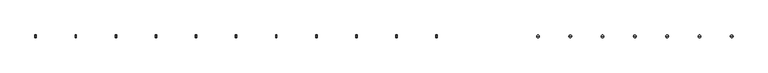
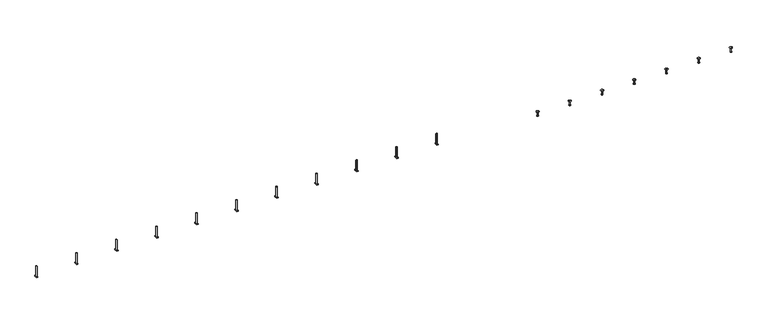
"""IFC4 building model written with IfcOpenShell, lengths in millimetres: fastener geometry, JTA-K JORDAHL® AnchorChannels : JTA-K L=6000 mm."""

from ifc_helpers import new_model, si_unit, frame, origin, place, context, project, spatial, polyline, circle_curve, source, transform, mapped, element, save
from ifc_brep_helpers import plane_surface, cylinder_surface, revolved_surface, advanced_brep


def fastener_eb618456(model_context):
    return source(origin(), model_context, "Body", "AdvancedBrep", [
        advanced_brep(
        [(3467.3421053, 11.0, -2.3), (3467.3421053, -11.0, -2.3), (3467.3421053, -11.0, -8.3), (3467.3421053, 11.0, -8.3), (3456.3421053, 11.0, -2.3), (3456.3421053, 11.0, -8.3), (3456.3421053, -11.0, -8.3), (3456.3421053, -11.0, -2.3), (3465.8421053, 0.0, -2.3), (3457.8421053, 0.0, -2.3), (3457.8421053, 0.0, 77.7), (3465.8421053, 0.0, 77.7)],
        [
            (0, 1),
            (1, 2),
            (2, 3),
            (3, 0),
            (4, 5),
            (5, 6),
            (6, 7),
            (7, 4),
            (0, 4),
            (7, 1),
            (8, 9, circle_curve(frame((3461.8421053, 0.0, -2.3), z_axis=(0.0, 0.0, -1.0), x_axis=(1.0, 0.0, 0.0)), 4.0)),
            (9, 8, circle_curve(frame((3461.8421053, 0.0, -2.3), z_axis=(0.0, 0.0, -1.0), x_axis=(1.0, 0.0, 0.0)), 4.0)),
            (6, 2),
            (5, 3),
            (10, 11, circle_curve(frame((3461.8421053, 0.0, 77.7), z_axis=(0.0, 0.0, 1.0), x_axis=(1.0, 0.0, 0.0)), 4.0)),
            (11, 10, circle_curve(frame((3461.8421053, 0.0, 77.7), z_axis=(0.0, 0.0, 1.0), x_axis=(1.0, 0.0, 0.0)), 4.0)),
            (10, 9),
            (8, 11),
        ],
        [
            plane_surface(frame((3467.3421053, -11.0, -2.3), z_axis=(1.0, 0.0, 0.0), x_axis=(0.0, -1.0, 0.0))),
            plane_surface(frame((3456.3421053, -11.0, -2.3), z_axis=(-1.0, 0.0, 0.0), x_axis=(0.0, 1.0, 0.0))),
            plane_surface(frame((3467.3421053, 11.0, -2.3), z_axis=(0.0, 0.0, 1.0), x_axis=(-1.0, 0.0, 0.0))),
            plane_surface(frame((3467.3421053, -11.0, -2.3), z_axis=(0.0, -1.0, 0.0), x_axis=(-1.0, 0.0, 0.0))),
            plane_surface(frame((3467.3421053, -11.0, -8.3), z_axis=(0.0, 0.0, -1.0), x_axis=(-1.0, 0.0, 0.0))),
            plane_surface(frame((3467.3421053, 11.0, -8.3), z_axis=(0.0, 1.0, 0.0), x_axis=(-1.0, 0.0, 0.0))),
            plane_surface(frame((3465.8421053, 0.0, 77.7), z_axis=(0.0, 0.0, 1.0), x_axis=(0.0, 1.0, 0.0))),
            cylinder_surface(frame((3461.8421053, 0.0, -2.3), z_axis=(0.0, 0.0, 1.0), x_axis=(1.0, 0.0, 0.0)), 4.0),
        ],
        [
            (0, [[1, 2, 3, 4]]),
            (1, [[5, 6, 7, 8]]),
            (2, [[-1, 9, -8, 10], [11, 12]]),
            (3, [[-2, -10, -7, 13]]),
            (4, [[-3, -13, -6, 14]]),
            (5, [[-4, -14, -5, -9]]),
            (6, [[15, 16]]),
            (7, [[-15, 17, -11, 18]]),
            (7, [[-16, -18, -12, -17]]),
        ],
    ),
        advanced_brep(
        [(3159.4473684, 11.0, -2.3), (3159.4473684, -11.0, -2.3), (3159.4473684, -11.0, -8.3), (3159.4473684, 11.0, -8.3), (3148.4473684, 11.0, -2.3), (3148.4473684, 11.0, -8.3), (3148.4473684, -11.0, -8.3), (3148.4473684, -11.0, -2.3), (3157.9473684, 0.0, -2.3), (3149.9473684, 0.0, -2.3), (3149.9473684, 0.0, 77.7), (3157.9473684, 0.0, 77.7)],
        [
            (0, 1),
            (1, 2),
            (2, 3),
            (3, 0),
            (4, 5),
            (5, 6),
            (6, 7),
            (7, 4),
            (0, 4),
            (7, 1),
            (8, 9, circle_curve(frame((3153.9473684, 0.0, -2.3), z_axis=(0.0, 0.0, -1.0), x_axis=(1.0, 0.0, 0.0)), 4.0)),
            (9, 8, circle_curve(frame((3153.9473684, 0.0, -2.3), z_axis=(0.0, 0.0, -1.0), x_axis=(1.0, 0.0, 0.0)), 4.0)),
            (6, 2),
            (5, 3),
            (10, 11, circle_curve(frame((3153.9473684, 0.0, 77.7), z_axis=(0.0, 0.0, 1.0), x_axis=(1.0, 0.0, 0.0)), 4.0)),
            (11, 10, circle_curve(frame((3153.9473684, 0.0, 77.7), z_axis=(0.0, 0.0, 1.0), x_axis=(1.0, 0.0, 0.0)), 4.0)),
            (10, 9),
            (8, 11),
        ],
        [
            plane_surface(frame((3159.4473684, -11.0, -2.3), z_axis=(1.0, 0.0, 0.0), x_axis=(0.0, -1.0, 0.0))),
            plane_surface(frame((3148.4473684, -11.0, -2.3), z_axis=(-1.0, 0.0, 0.0), x_axis=(0.0, 1.0, 0.0))),
            plane_surface(frame((3159.4473684, 11.0, -2.3), z_axis=(0.0, 0.0, 1.0), x_axis=(-1.0, 0.0, 0.0))),
            plane_surface(frame((3159.4473684, -11.0, -2.3), z_axis=(0.0, -1.0, 0.0), x_axis=(-1.0, 0.0, 0.0))),
            plane_surface(frame((3159.4473684, -11.0, -8.3), z_axis=(0.0, 0.0, -1.0), x_axis=(-1.0, 0.0, 0.0))),
            plane_surface(frame((3159.4473684, 11.0, -8.3), z_axis=(0.0, 1.0, 0.0), x_axis=(-1.0, 0.0, 0.0))),
            plane_surface(frame((3157.9473684, 0.0, 77.7), z_axis=(0.0, 0.0, 1.0), x_axis=(0.0, 1.0, 0.0))),
            cylinder_surface(frame((3153.9473684, 0.0, -2.3), z_axis=(0.0, 0.0, 1.0), x_axis=(1.0, 0.0, 0.0)), 4.0),
        ],
        [
            (0, [[1, 2, 3, 4]]),
            (1, [[5, 6, 7, 8]]),
            (2, [[-1, 9, -8, 10], [11, 12]]),
            (3, [[-2, -10, -7, 13]]),
            (4, [[-3, -13, -6, 14]]),
            (5, [[-4, -14, -5, -9]]),
            (6, [[15, 16]]),
            (7, [[-15, 17, -11, 18]]),
            (7, [[-16, -18, -12, -17]]),
        ],
    ),
        advanced_brep(
        [(2851.5526316, 11.0, -2.3), (2851.5526316, -11.0, -2.3), (2851.5526316, -11.0, -8.3), (2851.5526316, 11.0, -8.3), (2840.5526316, 11.0, -2.3), (2840.5526316, 11.0, -8.3), (2840.5526316, -11.0, -8.3), (2840.5526316, -11.0, -2.3), (2850.0526316, 0.0, -2.3), (2842.0526316, 0.0, -2.3), (2842.0526316, 0.0, 77.7), (2850.0526316, 0.0, 77.7)],
        [
            (0, 1),
            (1, 2),
            (2, 3),
            (3, 0),
            (4, 5),
            (5, 6),
            (6, 7),
            (7, 4),
            (0, 4),
            (7, 1),
            (8, 9, circle_curve(frame((2846.0526316, 0.0, -2.3), z_axis=(0.0, 0.0, -1.0), x_axis=(1.0, 0.0, 0.0)), 4.0)),
            (9, 8, circle_curve(frame((2846.0526316, 0.0, -2.3), z_axis=(0.0, 0.0, -1.0), x_axis=(1.0, 0.0, 0.0)), 4.0)),
            (6, 2),
            (5, 3),
            (10, 11, circle_curve(frame((2846.0526316, 0.0, 77.7), z_axis=(0.0, 0.0, 1.0), x_axis=(1.0, 0.0, 0.0)), 4.0)),
            (11, 10, circle_curve(frame((2846.0526316, 0.0, 77.7), z_axis=(0.0, 0.0, 1.0), x_axis=(1.0, 0.0, 0.0)), 4.0)),
            (10, 9),
            (8, 11),
        ],
        [
            plane_surface(frame((2851.5526316, -11.0, -2.3), z_axis=(1.0, 0.0, 0.0), x_axis=(0.0, -1.0, 0.0))),
            plane_surface(frame((2840.5526316, -11.0, -2.3), z_axis=(-1.0, 0.0, 0.0), x_axis=(0.0, 1.0, 0.0))),
            plane_surface(frame((2851.5526316, 11.0, -2.3), z_axis=(0.0, 0.0, 1.0), x_axis=(-1.0, 0.0, 0.0))),
            plane_surface(frame((2851.5526316, -11.0, -2.3), z_axis=(0.0, -1.0, 0.0), x_axis=(-1.0, 0.0, 0.0))),
            plane_surface(frame((2851.5526316, -11.0, -8.3), z_axis=(0.0, 0.0, -1.0), x_axis=(-1.0, 0.0, 0.0))),
            plane_surface(frame((2851.5526316, 11.0, -8.3), z_axis=(0.0, 1.0, 0.0), x_axis=(-1.0, 0.0, 0.0))),
            plane_surface(frame((2850.0526316, 0.0, 77.7), z_axis=(0.0, 0.0, 1.0), x_axis=(0.0, 1.0, 0.0))),
            cylinder_surface(frame((2846.0526316, 0.0, -2.3), z_axis=(0.0, 0.0, 1.0), x_axis=(1.0, 0.0, 0.0)), 4.0),
        ],
        [
            (0, [[1, 2, 3, 4]]),
            (1, [[5, 6, 7, 8]]),
            (2, [[-1, 9, -8, 10], [11, 12]]),
            (3, [[-2, -10, -7, 13]]),
            (4, [[-3, -13, -6, 14]]),
            (5, [[-4, -14, -5, -9]]),
            (6, [[15, 16]]),
            (7, [[-15, 17, -11, 18]]),
            (7, [[-16, -18, -12, -17]]),
        ],
    ),
        advanced_brep(
        [(2543.6578947, 11.0, -2.3), (2543.6578947, -11.0, -2.3), (2543.6578947, -11.0, -8.3), (2543.6578947, 11.0, -8.3), (2532.6578947, 11.0, -2.3), (2532.6578947, 11.0, -8.3), (2532.6578947, -11.0, -8.3), (2532.6578947, -11.0, -2.3), (2542.1578947, 0.0, -2.3), (2534.1578947, 0.0, -2.3), (2534.1578947, 0.0, 77.7), (2542.1578947, 0.0, 77.7)],
        [
            (0, 1),
            (1, 2),
            (2, 3),
            (3, 0),
            (4, 5),
            (5, 6),
            (6, 7),
            (7, 4),
            (0, 4),
            (7, 1),
            (8, 9, circle_curve(frame((2538.1578947, 0.0, -2.3), z_axis=(0.0, 0.0, -1.0), x_axis=(1.0, 0.0, 0.0)), 4.0)),
            (9, 8, circle_curve(frame((2538.1578947, 0.0, -2.3), z_axis=(0.0, 0.0, -1.0), x_axis=(1.0, 0.0, 0.0)), 4.0)),
            (6, 2),
            (5, 3),
            (10, 11, circle_curve(frame((2538.1578947, 0.0, 77.7), z_axis=(0.0, 0.0, 1.0), x_axis=(1.0, 0.0, 0.0)), 4.0)),
            (11, 10, circle_curve(frame((2538.1578947, 0.0, 77.7), z_axis=(0.0, 0.0, 1.0), x_axis=(1.0, 0.0, 0.0)), 4.0)),
            (10, 9),
            (8, 11),
        ],
        [
            plane_surface(frame((2543.6578947, -11.0, -2.3), z_axis=(1.0, 0.0, 0.0), x_axis=(0.0, -1.0, 0.0))),
            plane_surface(frame((2532.6578947, -11.0, -2.3), z_axis=(-1.0, 0.0, 0.0), x_axis=(0.0, 1.0, 0.0))),
            plane_surface(frame((2543.6578947, 11.0, -2.3), z_axis=(0.0, 0.0, 1.0), x_axis=(-1.0, 0.0, 0.0))),
            plane_surface(frame((2543.6578947, -11.0, -2.3), z_axis=(0.0, -1.0, 0.0), x_axis=(-1.0, 0.0, 0.0))),
            plane_surface(frame((2543.6578947, -11.0, -8.3), z_axis=(0.0, 0.0, -1.0), x_axis=(-1.0, 0.0, 0.0))),
            plane_surface(frame((2543.6578947, 11.0, -8.3), z_axis=(0.0, 1.0, 0.0), x_axis=(-1.0, 0.0, 0.0))),
            plane_surface(frame((2542.1578947, 0.0, 77.7), z_axis=(0.0, 0.0, 1.0), x_axis=(0.0, 1.0, 0.0))),
            cylinder_surface(frame((2538.1578947, 0.0, -2.3), z_axis=(0.0, 0.0, 1.0), x_axis=(1.0, 0.0, 0.0)), 4.0),
        ],
        [
            (0, [[1, 2, 3, 4]]),
            (1, [[5, 6, 7, 8]]),
            (2, [[-1, 9, -8, 10], [11, 12]]),
            (3, [[-2, -10, -7, 13]]),
            (4, [[-3, -13, -6, 14]]),
            (5, [[-4, -14, -5, -9]]),
            (6, [[15, 16]]),
            (7, [[-15, 17, -11, 18]]),
            (7, [[-16, -18, -12, -17]]),
        ],
    ),
        advanced_brep(
        [(2235.7631579, 11.0, -2.3), (2235.7631579, -11.0, -2.3), (2235.7631579, -11.0, -8.3), (2235.7631579, 11.0, -8.3), (2224.7631579, 11.0, -2.3), (2224.7631579, 11.0, -8.3), (2224.7631579, -11.0, -8.3), (2224.7631579, -11.0, -2.3), (2234.2631579, 0.0, -2.3), (2226.2631579, 0.0, -2.3), (2226.2631579, 0.0, 77.7), (2234.2631579, 0.0, 77.7)],
        [
            (0, 1),
            (1, 2),
            (2, 3),
            (3, 0),
            (4, 5),
            (5, 6),
            (6, 7),
            (7, 4),
            (0, 4),
            (7, 1),
            (8, 9, circle_curve(frame((2230.2631579, 0.0, -2.3), z_axis=(0.0, 0.0, -1.0), x_axis=(1.0, 0.0, 0.0)), 4.0)),
            (9, 8, circle_curve(frame((2230.2631579, 0.0, -2.3), z_axis=(0.0, 0.0, -1.0), x_axis=(1.0, 0.0, 0.0)), 4.0)),
            (6, 2),
            (5, 3),
            (10, 11, circle_curve(frame((2230.2631579, 0.0, 77.7), z_axis=(0.0, 0.0, 1.0), x_axis=(1.0, 0.0, 0.0)), 4.0)),
            (11, 10, circle_curve(frame((2230.2631579, 0.0, 77.7), z_axis=(0.0, 0.0, 1.0), x_axis=(1.0, 0.0, 0.0)), 4.0)),
            (10, 9),
            (8, 11),
        ],
        [
            plane_surface(frame((2235.7631579, -11.0, -2.3), z_axis=(1.0, 0.0, 0.0), x_axis=(0.0, -1.0, 0.0))),
            plane_surface(frame((2224.7631579, -11.0, -2.3), z_axis=(-1.0, 0.0, 0.0), x_axis=(0.0, 1.0, 0.0))),
            plane_surface(frame((2235.7631579, 11.0, -2.3), z_axis=(0.0, 0.0, 1.0), x_axis=(-1.0, 0.0, 0.0))),
            plane_surface(frame((2235.7631579, -11.0, -2.3), z_axis=(0.0, -1.0, 0.0), x_axis=(-1.0, 0.0, 0.0))),
            plane_surface(frame((2235.7631579, -11.0, -8.3), z_axis=(0.0, 0.0, -1.0), x_axis=(-1.0, 0.0, 0.0))),
            plane_surface(frame((2235.7631579, 11.0, -8.3), z_axis=(0.0, 1.0, 0.0), x_axis=(-1.0, 0.0, 0.0))),
            plane_surface(frame((2234.2631579, 0.0, 77.7), z_axis=(0.0, 0.0, 1.0), x_axis=(0.0, 1.0, 0.0))),
            cylinder_surface(frame((2230.2631579, 0.0, -2.3), z_axis=(0.0, 0.0, 1.0), x_axis=(1.0, 0.0, 0.0)), 4.0),
        ],
        [
            (0, [[1, 2, 3, 4]]),
            (1, [[5, 6, 7, 8]]),
            (2, [[-1, 9, -8, 10], [11, 12]]),
            (3, [[-2, -10, -7, 13]]),
            (4, [[-3, -13, -6, 14]]),
            (5, [[-4, -14, -5, -9]]),
            (6, [[15, 16]]),
            (7, [[-15, 17, -11, 18]]),
            (7, [[-16, -18, -12, -17]]),
        ],
    ),
        advanced_brep(
        [(1927.8684211, 11.0, -2.3), (1927.8684211, -11.0, -2.3), (1927.8684211, -11.0, -8.3), (1927.8684211, 11.0, -8.3), (1916.8684211, 11.0, -2.3), (1916.8684211, 11.0, -8.3), (1916.8684211, -11.0, -8.3), (1916.8684211, -11.0, -2.3), (1926.3684211, 0.0, -2.3), (1918.3684211, 0.0, -2.3), (1918.3684211, 0.0, 77.7), (1926.3684211, 0.0, 77.7)],
        [
            (0, 1),
            (1, 2),
            (2, 3),
            (3, 0),
            (4, 5),
            (5, 6),
            (6, 7),
            (7, 4),
            (0, 4),
            (7, 1),
            (8, 9, circle_curve(frame((1922.3684211, 0.0, -2.3), z_axis=(0.0, 0.0, -1.0), x_axis=(1.0, 0.0, 0.0)), 4.0)),
            (9, 8, circle_curve(frame((1922.3684211, 0.0, -2.3), z_axis=(0.0, 0.0, -1.0), x_axis=(1.0, 0.0, 0.0)), 4.0)),
            (6, 2),
            (5, 3),
            (10, 11, circle_curve(frame((1922.3684211, 0.0, 77.7), z_axis=(0.0, 0.0, 1.0), x_axis=(1.0, 0.0, 0.0)), 4.0)),
            (11, 10, circle_curve(frame((1922.3684211, 0.0, 77.7), z_axis=(0.0, 0.0, 1.0), x_axis=(1.0, 0.0, 0.0)), 4.0)),
            (10, 9),
            (8, 11),
        ],
        [
            plane_surface(frame((1927.8684211, -11.0, -2.3), z_axis=(1.0, 0.0, 0.0), x_axis=(0.0, -1.0, 0.0))),
            plane_surface(frame((1916.8684211, -11.0, -2.3), z_axis=(-1.0, 0.0, 0.0), x_axis=(0.0, 1.0, 0.0))),
            plane_surface(frame((1927.8684211, 11.0, -2.3), z_axis=(0.0, 0.0, 1.0), x_axis=(-1.0, 0.0, 0.0))),
            plane_surface(frame((1927.8684211, -11.0, -2.3), z_axis=(0.0, -1.0, 0.0), x_axis=(-1.0, 0.0, 0.0))),
            plane_surface(frame((1927.8684211, -11.0, -8.3), z_axis=(0.0, 0.0, -1.0), x_axis=(-1.0, 0.0, 0.0))),
            plane_surface(frame((1927.8684211, 11.0, -8.3), z_axis=(0.0, 1.0, 0.0), x_axis=(-1.0, 0.0, 0.0))),
            plane_surface(frame((1926.3684211, 0.0, 77.7), z_axis=(0.0, 0.0, 1.0), x_axis=(0.0, 1.0, 0.0))),
            cylinder_surface(frame((1922.3684211, 0.0, -2.3), z_axis=(0.0, 0.0, 1.0), x_axis=(1.0, 0.0, 0.0)), 4.0),
        ],
        [
            (0, [[1, 2, 3, 4]]),
            (1, [[5, 6, 7, 8]]),
            (2, [[-1, 9, -8, 10], [11, 12]]),
            (3, [[-2, -10, -7, 13]]),
            (4, [[-3, -13, -6, 14]]),
            (5, [[-4, -14, -5, -9]]),
            (6, [[15, 16]]),
            (7, [[-15, 17, -11, 18]]),
            (7, [[-16, -18, -12, -17]]),
        ],
    ),
        advanced_brep(
        [(1619.9736842, 11.0, -2.3), (1619.9736842, -11.0, -2.3), (1619.9736842, -11.0, -8.3), (1619.9736842, 11.0, -8.3), (1608.9736842, 11.0, -2.3), (1608.9736842, 11.0, -8.3), (1608.9736842, -11.0, -8.3), (1608.9736842, -11.0, -2.3), (1618.4736842, 0.0, -2.3), (1610.4736842, 0.0, -2.3), (1610.4736842, 0.0, 77.7), (1618.4736842, 0.0, 77.7)],
        [
            (0, 1),
            (1, 2),
            (2, 3),
            (3, 0),
            (4, 5),
            (5, 6),
            (6, 7),
            (7, 4),
            (0, 4),
            (7, 1),
            (8, 9, circle_curve(frame((1614.4736842, 0.0, -2.3), z_axis=(0.0, 0.0, -1.0), x_axis=(1.0, 0.0, 0.0)), 4.0)),
            (9, 8, circle_curve(frame((1614.4736842, 0.0, -2.3), z_axis=(0.0, 0.0, -1.0), x_axis=(1.0, 0.0, 0.0)), 4.0)),
            (6, 2),
            (5, 3),
            (10, 11, circle_curve(frame((1614.4736842, 0.0, 77.7), z_axis=(0.0, 0.0, 1.0), x_axis=(1.0, 0.0, 0.0)), 4.0)),
            (11, 10, circle_curve(frame((1614.4736842, 0.0, 77.7), z_axis=(0.0, 0.0, 1.0), x_axis=(1.0, 0.0, 0.0)), 4.0)),
            (10, 9),
            (8, 11),
        ],
        [
            plane_surface(frame((1619.9736842, -11.0, -2.3), z_axis=(1.0, 0.0, 0.0), x_axis=(0.0, -1.0, 0.0))),
            plane_surface(frame((1608.9736842, -11.0, -2.3), z_axis=(-1.0, 0.0, 0.0), x_axis=(0.0, 1.0, 0.0))),
            plane_surface(frame((1619.9736842, 11.0, -2.3), z_axis=(0.0, 0.0, 1.0), x_axis=(-1.0, 0.0, 0.0))),
            plane_surface(frame((1619.9736842, -11.0, -2.3), z_axis=(0.0, -1.0, 0.0), x_axis=(-1.0, 0.0, 0.0))),
            plane_surface(frame((1619.9736842, -11.0, -8.3), z_axis=(0.0, 0.0, -1.0), x_axis=(-1.0, 0.0, 0.0))),
            plane_surface(frame((1619.9736842, 11.0, -8.3), z_axis=(0.0, 1.0, 0.0), x_axis=(-1.0, 0.0, 0.0))),
            plane_surface(frame((1618.4736842, 0.0, 77.7), z_axis=(0.0, 0.0, 1.0), x_axis=(0.0, 1.0, 0.0))),
            cylinder_surface(frame((1614.4736842, 0.0, -2.3), z_axis=(0.0, 0.0, 1.0), x_axis=(1.0, 0.0, 0.0)), 4.0),
        ],
        [
            (0, [[1, 2, 3, 4]]),
            (1, [[5, 6, 7, 8]]),
            (2, [[-1, 9, -8, 10], [11, 12]]),
            (3, [[-2, -10, -7, 13]]),
            (4, [[-3, -13, -6, 14]]),
            (5, [[-4, -14, -5, -9]]),
            (6, [[15, 16]]),
            (7, [[-15, 17, -11, 18]]),
            (7, [[-16, -18, -12, -17]]),
        ],
    ),
        advanced_brep(
        [(1312.0789474, 11.0, -2.3), (1312.0789474, -11.0, -2.3), (1312.0789474, -11.0, -8.3), (1312.0789474, 11.0, -8.3), (1301.0789474, 11.0, -2.3), (1301.0789474, 11.0, -8.3), (1301.0789474, -11.0, -8.3), (1301.0789474, -11.0, -2.3), (1310.5789474, 0.0, -2.3), (1302.5789474, 0.0, -2.3), (1302.5789474, 0.0, 77.7), (1310.5789474, 0.0, 77.7)],
        [
            (0, 1),
            (1, 2),
            (2, 3),
            (3, 0),
            (4, 5),
            (5, 6),
            (6, 7),
            (7, 4),
            (0, 4),
            (7, 1),
            (8, 9, circle_curve(frame((1306.5789474, 0.0, -2.3), z_axis=(0.0, 0.0, -1.0), x_axis=(1.0, 0.0, 0.0)), 4.0)),
            (9, 8, circle_curve(frame((1306.5789474, 0.0, -2.3), z_axis=(0.0, 0.0, -1.0), x_axis=(1.0, 0.0, 0.0)), 4.0)),
            (6, 2),
            (5, 3),
            (10, 11, circle_curve(frame((1306.5789474, 0.0, 77.7), z_axis=(0.0, 0.0, 1.0), x_axis=(1.0, 0.0, 0.0)), 4.0)),
            (11, 10, circle_curve(frame((1306.5789474, 0.0, 77.7), z_axis=(0.0, 0.0, 1.0), x_axis=(1.0, 0.0, 0.0)), 4.0)),
            (10, 9),
            (8, 11),
        ],
        [
            plane_surface(frame((1312.0789474, -11.0, -2.3), z_axis=(1.0, 0.0, 0.0), x_axis=(0.0, -1.0, 0.0))),
            plane_surface(frame((1301.0789474, -11.0, -2.3), z_axis=(-1.0, 0.0, 0.0), x_axis=(0.0, 1.0, 0.0))),
            plane_surface(frame((1312.0789474, 11.0, -2.3), z_axis=(0.0, 0.0, 1.0), x_axis=(-1.0, 0.0, 0.0))),
            plane_surface(frame((1312.0789474, -11.0, -2.3), z_axis=(0.0, -1.0, 0.0), x_axis=(-1.0, 0.0, 0.0))),
            plane_surface(frame((1312.0789474, -11.0, -8.3), z_axis=(0.0, 0.0, -1.0), x_axis=(-1.0, 0.0, 0.0))),
            plane_surface(frame((1312.0789474, 11.0, -8.3), z_axis=(0.0, 1.0, 0.0), x_axis=(-1.0, 0.0, 0.0))),
            plane_surface(frame((1310.5789474, 0.0, 77.7), z_axis=(0.0, 0.0, 1.0), x_axis=(0.0, 1.0, 0.0))),
            cylinder_surface(frame((1306.5789474, 0.0, -2.3), z_axis=(0.0, 0.0, 1.0), x_axis=(1.0, 0.0, 0.0)), 4.0),
        ],
        [
            (0, [[1, 2, 3, 4]]),
            (1, [[5, 6, 7, 8]]),
            (2, [[-1, 9, -8, 10], [11, 12]]),
            (3, [[-2, -10, -7, 13]]),
            (4, [[-3, -13, -6, 14]]),
            (5, [[-4, -14, -5, -9]]),
            (6, [[15, 16]]),
            (7, [[-15, 17, -11, 18]]),
            (7, [[-16, -18, -12, -17]]),
        ],
    ),
        advanced_brep(
        [(1004.1842105, 11.0, -2.3), (1004.1842105, -11.0, -2.3), (1004.1842105, -11.0, -8.3), (1004.1842105, 11.0, -8.3), (993.1842105, 11.0, -2.3), (993.1842105, 11.0, -8.3), (993.1842105, -11.0, -8.3), (993.1842105, -11.0, -2.3), (1002.6842105, 0.0, -2.3), (994.6842105, 0.0, -2.3), (994.6842105, 0.0, 77.7), (1002.6842105, 0.0, 77.7)],
        [
            (0, 1),
            (1, 2),
            (2, 3),
            (3, 0),
            (4, 5),
            (5, 6),
            (6, 7),
            (7, 4),
            (0, 4),
            (7, 1),
            (8, 9, circle_curve(frame((998.6842105, 0.0, -2.3), z_axis=(0.0, 0.0, -1.0), x_axis=(1.0, 0.0, 0.0)), 4.0)),
            (9, 8, circle_curve(frame((998.6842105, 0.0, -2.3), z_axis=(0.0, 0.0, -1.0), x_axis=(1.0, 0.0, 0.0)), 4.0)),
            (6, 2),
            (5, 3),
            (10, 11, circle_curve(frame((998.6842105, 0.0, 77.7), z_axis=(0.0, 0.0, 1.0), x_axis=(1.0, 0.0, 0.0)), 4.0)),
            (11, 10, circle_curve(frame((998.6842105, 0.0, 77.7), z_axis=(0.0, 0.0, 1.0), x_axis=(1.0, 0.0, 0.0)), 4.0)),
            (10, 9),
            (8, 11),
        ],
        [
            plane_surface(frame((1004.1842105, -11.0, -2.3), z_axis=(1.0, 0.0, 0.0), x_axis=(0.0, -1.0, 0.0))),
            plane_surface(frame((993.1842105, -11.0, -2.3), z_axis=(-1.0, 0.0, 0.0), x_axis=(0.0, 1.0, 0.0))),
            plane_surface(frame((1004.1842105, 11.0, -2.3), z_axis=(0.0, 0.0, 1.0), x_axis=(-1.0, 0.0, 0.0))),
            plane_surface(frame((1004.1842105, -11.0, -2.3), z_axis=(0.0, -1.0, 0.0), x_axis=(-1.0, 0.0, 0.0))),
            plane_surface(frame((1004.1842105, -11.0, -8.3), z_axis=(0.0, 0.0, -1.0), x_axis=(-1.0, 0.0, 0.0))),
            plane_surface(frame((1004.1842105, 11.0, -8.3), z_axis=(0.0, 1.0, 0.0), x_axis=(-1.0, 0.0, 0.0))),
            plane_surface(frame((1002.6842105, 0.0, 77.7), z_axis=(0.0, 0.0, 1.0), x_axis=(0.0, 1.0, 0.0))),
            cylinder_surface(frame((998.6842105, 0.0, -2.3), z_axis=(0.0, 0.0, 1.0), x_axis=(1.0, 0.0, 0.0)), 4.0),
        ],
        [
            (0, [[1, 2, 3, 4]]),
            (1, [[5, 6, 7, 8]]),
            (2, [[-1, 9, -8, 10], [11, 12]]),
            (3, [[-2, -10, -7, 13]]),
            (4, [[-3, -13, -6, 14]]),
            (5, [[-4, -14, -5, -9]]),
            (6, [[15, 16]]),
            (7, [[-15, 17, -11, 18]]),
            (7, [[-16, -18, -12, -17]]),
        ],
    ),
        advanced_brep(
        [(696.2894737, 11.0, -2.3), (696.2894737, -11.0, -2.3), (696.2894737, -11.0, -8.3), (696.2894737, 11.0, -8.3), (685.2894737, 11.0, -2.3), (685.2894737, 11.0, -8.3), (685.2894737, -11.0, -8.3), (685.2894737, -11.0, -2.3), (694.7894737, 0.0, -2.3), (686.7894737, 0.0, -2.3), (686.7894737, 0.0, 77.7), (694.7894737, 0.0, 77.7)],
        [
            (0, 1),
            (1, 2),
            (2, 3),
            (3, 0),
            (4, 5),
            (5, 6),
            (6, 7),
            (7, 4),
            (0, 4),
            (7, 1),
            (8, 9, circle_curve(frame((690.7894737, 0.0, -2.3), z_axis=(0.0, 0.0, -1.0), x_axis=(1.0, 0.0, 0.0)), 4.0)),
            (9, 8, circle_curve(frame((690.7894737, 0.0, -2.3), z_axis=(0.0, 0.0, -1.0), x_axis=(1.0, 0.0, 0.0)), 4.0)),
            (6, 2),
            (5, 3),
            (10, 11, circle_curve(frame((690.7894737, 0.0, 77.7), z_axis=(0.0, 0.0, 1.0), x_axis=(1.0, 0.0, 0.0)), 4.0)),
            (11, 10, circle_curve(frame((690.7894737, 0.0, 77.7), z_axis=(0.0, 0.0, 1.0), x_axis=(1.0, 0.0, 0.0)), 4.0)),
            (10, 9),
            (8, 11),
        ],
        [
            plane_surface(frame((696.2894737, -11.0, -2.3), z_axis=(1.0, 0.0, 0.0), x_axis=(0.0, -1.0, 0.0))),
            plane_surface(frame((685.2894737, -11.0, -2.3), z_axis=(-1.0, 0.0, 0.0), x_axis=(0.0, 1.0, 0.0))),
            plane_surface(frame((696.2894737, 11.0, -2.3), z_axis=(0.0, 0.0, 1.0), x_axis=(-1.0, 0.0, 0.0))),
            plane_surface(frame((696.2894737, -11.0, -2.3), z_axis=(0.0, -1.0, 0.0), x_axis=(-1.0, 0.0, 0.0))),
            plane_surface(frame((696.2894737, -11.0, -8.3), z_axis=(0.0, 0.0, -1.0), x_axis=(-1.0, 0.0, 0.0))),
            plane_surface(frame((696.2894737, 11.0, -8.3), z_axis=(0.0, 1.0, 0.0), x_axis=(-1.0, 0.0, 0.0))),
            plane_surface(frame((694.7894737, 0.0, 77.7), z_axis=(0.0, 0.0, 1.0), x_axis=(0.0, 1.0, 0.0))),
            cylinder_surface(frame((690.7894737, 0.0, -2.3), z_axis=(0.0, 0.0, 1.0), x_axis=(1.0, 0.0, 0.0)), 4.0),
        ],
        [
            (0, [[1, 2, 3, 4]]),
            (1, [[5, 6, 7, 8]]),
            (2, [[-1, 9, -8, 10], [11, 12]]),
            (3, [[-2, -10, -7, 13]]),
            (4, [[-3, -13, -6, 14]]),
            (5, [[-4, -14, -5, -9]]),
            (6, [[15, 16]]),
            (7, [[-15, 17, -11, 18]]),
            (7, [[-16, -18, -12, -17]]),
        ],
    ),
        advanced_brep(
        [(388.3947368, 11.0, -2.3), (388.3947368, -11.0, -2.3), (388.3947368, -11.0, -8.3), (388.3947368, 11.0, -8.3), (377.3947368, 11.0, -2.3), (377.3947368, 11.0, -8.3), (377.3947368, -11.0, -8.3), (377.3947368, -11.0, -2.3), (386.8947368, 0.0, -2.3), (378.8947368, 0.0, -2.3), (378.8947368, 0.0, 77.7), (386.8947368, 0.0, 77.7)],
        [
            (0, 1),
            (1, 2),
            (2, 3),
            (3, 0),
            (4, 5),
            (5, 6),
            (6, 7),
            (7, 4),
            (0, 4),
            (7, 1),
            (8, 9, circle_curve(frame((382.8947368, 0.0, -2.3), z_axis=(0.0, 0.0, -1.0), x_axis=(1.0, 0.0, 0.0)), 4.0)),
            (9, 8, circle_curve(frame((382.8947368, 0.0, -2.3), z_axis=(0.0, 0.0, -1.0), x_axis=(1.0, 0.0, 0.0)), 4.0)),
            (6, 2),
            (5, 3),
            (10, 11, circle_curve(frame((382.8947368, 0.0, 77.7), z_axis=(0.0, 0.0, 1.0), x_axis=(1.0, 0.0, 0.0)), 4.0)),
            (11, 10, circle_curve(frame((382.8947368, 0.0, 77.7), z_axis=(0.0, 0.0, 1.0), x_axis=(1.0, 0.0, 0.0)), 4.0)),
            (10, 9),
            (8, 11),
        ],
        [
            plane_surface(frame((388.3947368, -11.0, -2.3), z_axis=(1.0, 0.0, 0.0), x_axis=(0.0, -1.0, 0.0))),
            plane_surface(frame((377.3947368, -11.0, -2.3), z_axis=(-1.0, 0.0, 0.0), x_axis=(0.0, 1.0, 0.0))),
            plane_surface(frame((388.3947368, 11.0, -2.3), z_axis=(0.0, 0.0, 1.0), x_axis=(-1.0, 0.0, 0.0))),
            plane_surface(frame((388.3947368, -11.0, -2.3), z_axis=(0.0, -1.0, 0.0), x_axis=(-1.0, 0.0, 0.0))),
            plane_surface(frame((388.3947368, -11.0, -8.3), z_axis=(0.0, 0.0, -1.0), x_axis=(-1.0, 0.0, 0.0))),
            plane_surface(frame((388.3947368, 11.0, -8.3), z_axis=(0.0, 1.0, 0.0), x_axis=(-1.0, 0.0, 0.0))),
            plane_surface(frame((386.8947368, 0.0, 77.7), z_axis=(0.0, 0.0, 1.0), x_axis=(0.0, 1.0, 0.0))),
            cylinder_surface(frame((382.8947368, 0.0, -2.3), z_axis=(0.0, 0.0, 1.0), x_axis=(1.0, 0.0, 0.0)), 4.0),
        ],
        [
            (0, [[1, 2, 3, 4]]),
            (1, [[5, 6, 7, 8]]),
            (2, [[-1, 9, -8, 10], [11, 12]]),
            (3, [[-2, -10, -7, 13]]),
            (4, [[-3, -13, -6, 14]]),
            (5, [[-4, -14, -5, -9]]),
            (6, [[15, 16]]),
            (7, [[-15, 17, -11, 18]]),
            (7, [[-16, -18, -12, -17]]),
        ],
    ),
        advanced_brep(
        [(5727.0833333, 0.0, -15.0), (5737.5833333, 0.0, -15.0), (5716.5833333, 0.0, -15.0), (5721.0833333, 0.0, -50.0), (5733.0833333, 0.0, -50.0), (5727.0833333, 0.0, -50.0), (5721.0833333, 0.0, -48.0), (5733.0833333, 0.0, -48.0), (5723.5833333, 0.0, -46.5566243), (5730.5833333, 0.0, -46.5566243), (5723.5833333, 0.0, -17.5), (5730.5833333, 0.0, -17.5)],
        [
            (0, 1),
            (1, 2, circle_curve(frame((5727.0833333, 0.0, -15.0), z_axis=(0.0, 0.0, 1.0), x_axis=(1.0, 0.0, 0.0)), 10.5)),
            (2, 0),
            (2, 1, circle_curve(frame((5727.0833333, 0.0, -15.0), z_axis=(0.0, 0.0, 1.0), x_axis=(1.0, 0.0, 0.0)), 10.5)),
            (3, 4, circle_curve(frame((5727.0833333, 0.0, -50.0), z_axis=(0.0, 0.0, -1.0), x_axis=(1.0, 0.0, 0.0)), 6.0)),
            (4, 5),
            (5, 3),
            (4, 3, circle_curve(frame((5727.0833333, 0.0, -50.0), z_axis=(0.0, 0.0, -1.0), x_axis=(1.0, 0.0, 0.0)), 6.0)),
            (6, 7, circle_curve(frame((5727.0833333, 0.0, -48.0), z_axis=(0.0, 0.0, -1.0), x_axis=(1.0, 0.0, 0.0)), 6.0)),
            (7, 4),
            (3, 6),
            (7, 6, circle_curve(frame((5727.0833333, 0.0, -48.0), z_axis=(0.0, 0.0, -1.0), x_axis=(1.0, 0.0, 0.0)), 6.0)),
            (8, 9, circle_curve(frame((5727.0833333, 0.0, -46.5566243), z_axis=(0.0, 0.0, -1.0), x_axis=(1.0, 0.0, 0.0)), 3.5)),
            (9, 7),
            (6, 8),
            (9, 8, circle_curve(frame((5727.0833333, 0.0, -46.5566243), z_axis=(0.0, 0.0, -1.0), x_axis=(1.0, 0.0, 0.0)), 3.5)),
            (10, 11, circle_curve(frame((5727.0833333, 0.0, -17.5), z_axis=(0.0, 0.0, -1.0), x_axis=(1.0, 0.0, 0.0)), 3.5)),
            (11, 9),
            (8, 10),
            (11, 10, circle_curve(frame((5727.0833333, 0.0, -17.5), z_axis=(0.0, 0.0, -1.0), x_axis=(1.0, 0.0, 0.0)), 3.5)),
            (1, 11),
            (10, 2),
        ],
        [
            plane_surface(frame((5727.0833333, 0.0, -15.0), z_axis=(0.0, 0.0, 1.0), x_axis=(1.0, 0.0, 0.0))),
            plane_surface(frame((5727.0833333, 0.0, -50.0), z_axis=(0.0, 0.0, -1.0), x_axis=(1.0, 0.0, 0.0))),
            cylinder_surface(frame((5727.0833333, 0.0, 2249.3150031), z_axis=(0.0, 0.0, 1.0), x_axis=(1.0, 0.0, 0.0)), 6.0),
            revolved_surface(polyline([(5733.0833333, 0.0, -48.0), (5730.5833333, 0.0, -46.5566243)]), (5727.0833333, 0.0, 2249.3150031), (0.0, 0.0, 1.0)),
            cylinder_surface(frame((5727.0833333, 0.0, 2249.3150031), z_axis=(0.0, 0.0, 1.0), x_axis=(1.0, 0.0, 0.0)), 3.5),
            revolved_surface(polyline([(5730.5833333, 0.0, -17.5), (5737.5833333, 0.0, -15.0)]), (5727.0833333, 0.0, 2249.3150031), (0.0, 0.0, 1.0)),
        ],
        [
            (0, [[1, 2, 3]]),
            (0, [[-3, 4, -1]]),
            (1, [[5, 6, 7]]),
            (1, [[8, -7, -6]]),
            (2, [[9, 10, -5, 11]]),
            (2, [[12, -11, -8, -10]]),
            (3, [[13, 14, -9, 15]]),
            (3, [[16, -15, -12, -14]]),
            (4, [[17, 18, -13, 19]]),
            (4, [[20, -19, -16, -18]]),
            (5, [[-2, 21, -17, 22]]),
            (5, [[-4, -22, -20, -21]]),
        ],
    ),
        advanced_brep(
        [(5479.1666667, 0.0, -15.0), (5489.6666667, 0.0, -15.0), (5468.6666667, 0.0, -15.0), (5473.1666667, 0.0, -50.0), (5485.1666667, 0.0, -50.0), (5479.1666667, 0.0, -50.0), (5473.1666667, 0.0, -48.0), (5485.1666667, 0.0, -48.0), (5475.6666667, 0.0, -46.5566243), (5482.6666667, 0.0, -46.5566243), (5475.6666667, 0.0, -17.5), (5482.6666667, 0.0, -17.5)],
        [
            (0, 1),
            (1, 2, circle_curve(frame((5479.1666667, 0.0, -15.0), z_axis=(0.0, 0.0, 1.0), x_axis=(1.0, 0.0, 0.0)), 10.5)),
            (2, 0),
            (2, 1, circle_curve(frame((5479.1666667, 0.0, -15.0), z_axis=(0.0, 0.0, 1.0), x_axis=(1.0, 0.0, 0.0)), 10.5)),
            (3, 4, circle_curve(frame((5479.1666667, 0.0, -50.0), z_axis=(0.0, 0.0, -1.0), x_axis=(1.0, 0.0, 0.0)), 6.0)),
            (4, 5),
            (5, 3),
            (4, 3, circle_curve(frame((5479.1666667, 0.0, -50.0), z_axis=(0.0, 0.0, -1.0), x_axis=(1.0, 0.0, 0.0)), 6.0)),
            (6, 7, circle_curve(frame((5479.1666667, 0.0, -48.0), z_axis=(0.0, 0.0, -1.0), x_axis=(1.0, 0.0, 0.0)), 6.0)),
            (7, 4),
            (3, 6),
            (7, 6, circle_curve(frame((5479.1666667, 0.0, -48.0), z_axis=(0.0, 0.0, -1.0), x_axis=(1.0, 0.0, 0.0)), 6.0)),
            (8, 9, circle_curve(frame((5479.1666667, 0.0, -46.5566243), z_axis=(0.0, 0.0, -1.0), x_axis=(1.0, 0.0, 0.0)), 3.5)),
            (9, 7),
            (6, 8),
            (9, 8, circle_curve(frame((5479.1666667, 0.0, -46.5566243), z_axis=(0.0, 0.0, -1.0), x_axis=(1.0, 0.0, 0.0)), 3.5)),
            (10, 11, circle_curve(frame((5479.1666667, 0.0, -17.5), z_axis=(0.0, 0.0, -1.0), x_axis=(1.0, 0.0, 0.0)), 3.5)),
            (11, 9),
            (8, 10),
            (11, 10, circle_curve(frame((5479.1666667, 0.0, -17.5), z_axis=(0.0, 0.0, -1.0), x_axis=(1.0, 0.0, 0.0)), 3.5)),
            (1, 11),
            (10, 2),
        ],
        [
            plane_surface(frame((5479.1666667, 0.0, -15.0), z_axis=(0.0, 0.0, 1.0), x_axis=(1.0, 0.0, 0.0))),
            plane_surface(frame((5479.1666667, 0.0, -50.0), z_axis=(0.0, 0.0, -1.0), x_axis=(1.0, 0.0, 0.0))),
            cylinder_surface(frame((5479.1666667, 0.0, 2249.3150031), z_axis=(0.0, 0.0, 1.0), x_axis=(1.0, 0.0, 0.0)), 6.0),
            revolved_surface(polyline([(5485.1666667, 0.0, -48.0), (5482.6666667, 0.0, -46.5566243)]), (5479.1666667, 0.0, 2249.3150031), (0.0, 0.0, 1.0)),
            cylinder_surface(frame((5479.1666667, 0.0, 2249.3150031), z_axis=(0.0, 0.0, 1.0), x_axis=(1.0, 0.0, 0.0)), 3.5),
            revolved_surface(polyline([(5482.6666667, 0.0, -17.5), (5489.6666667, 0.0, -15.0)]), (5479.1666667, 0.0, 2249.3150031), (0.0, 0.0, 1.0)),
        ],
        [
            (0, [[1, 2, 3]]),
            (0, [[-3, 4, -1]]),
            (1, [[5, 6, 7]]),
            (1, [[8, -7, -6]]),
            (2, [[9, 10, -5, 11]]),
            (2, [[12, -11, -8, -10]]),
            (3, [[13, 14, -9, 15]]),
            (3, [[16, -15, -12, -14]]),
            (4, [[17, 18, -13, 19]]),
            (4, [[20, -19, -16, -18]]),
            (5, [[-2, 21, -17, 22]]),
            (5, [[-4, -22, -20, -21]]),
        ],
    ),
        advanced_brep(
        [(5231.25, 0.0, -15.0), (5241.75, 0.0, -15.0), (5220.75, 0.0, -15.0), (5225.25, 0.0, -50.0), (5237.25, 0.0, -50.0), (5231.25, 0.0, -50.0), (5225.25, 0.0, -48.0), (5237.25, 0.0, -48.0), (5227.75, 0.0, -46.5566243), (5234.75, 0.0, -46.5566243), (5227.75, 0.0, -17.5), (5234.75, 0.0, -17.5)],
        [
            (0, 1),
            (1, 2, circle_curve(frame((5231.25, 0.0, -15.0), z_axis=(0.0, 0.0, 1.0), x_axis=(1.0, 0.0, 0.0)), 10.5)),
            (2, 0),
            (2, 1, circle_curve(frame((5231.25, 0.0, -15.0), z_axis=(0.0, 0.0, 1.0), x_axis=(1.0, 0.0, 0.0)), 10.5)),
            (3, 4, circle_curve(frame((5231.25, 0.0, -50.0), z_axis=(0.0, 0.0, -1.0), x_axis=(1.0, 0.0, 0.0)), 6.0)),
            (4, 5),
            (5, 3),
            (4, 3, circle_curve(frame((5231.25, 0.0, -50.0), z_axis=(0.0, 0.0, -1.0), x_axis=(1.0, 0.0, 0.0)), 6.0)),
            (6, 7, circle_curve(frame((5231.25, 0.0, -48.0), z_axis=(0.0, 0.0, -1.0), x_axis=(1.0, 0.0, 0.0)), 6.0)),
            (7, 4),
            (3, 6),
            (7, 6, circle_curve(frame((5231.25, 0.0, -48.0), z_axis=(0.0, 0.0, -1.0), x_axis=(1.0, 0.0, 0.0)), 6.0)),
            (8, 9, circle_curve(frame((5231.25, 0.0, -46.5566243), z_axis=(0.0, 0.0, -1.0), x_axis=(1.0, 0.0, 0.0)), 3.5)),
            (9, 7),
            (6, 8),
            (9, 8, circle_curve(frame((5231.25, 0.0, -46.5566243), z_axis=(0.0, 0.0, -1.0), x_axis=(1.0, 0.0, 0.0)), 3.5)),
            (10, 11, circle_curve(frame((5231.25, 0.0, -17.5), z_axis=(0.0, 0.0, -1.0), x_axis=(1.0, 0.0, 0.0)), 3.5)),
            (11, 9),
            (8, 10),
            (11, 10, circle_curve(frame((5231.25, 0.0, -17.5), z_axis=(0.0, 0.0, -1.0), x_axis=(1.0, 0.0, 0.0)), 3.5)),
            (1, 11),
            (10, 2),
        ],
        [
            plane_surface(frame((5231.25, 0.0, -15.0), z_axis=(0.0, 0.0, 1.0), x_axis=(1.0, 0.0, 0.0))),
            plane_surface(frame((5231.25, 0.0, -50.0), z_axis=(0.0, 0.0, -1.0), x_axis=(1.0, 0.0, 0.0))),
            cylinder_surface(frame((5231.25, 0.0, 2249.3150031), z_axis=(0.0, 0.0, 1.0), x_axis=(1.0, 0.0, 0.0)), 6.0),
            revolved_surface(polyline([(5237.25, 0.0, -48.0), (5234.75, 0.0, -46.5566243)]), (5231.25, 0.0, 2249.3150031), (0.0, 0.0, 1.0)),
            cylinder_surface(frame((5231.25, 0.0, 2249.3150031), z_axis=(0.0, 0.0, 1.0), x_axis=(1.0, 0.0, 0.0)), 3.5),
            revolved_surface(polyline([(5234.75, 0.0, -17.5), (5241.75, 0.0, -15.0)]), (5231.25, 0.0, 2249.3150031), (0.0, 0.0, 1.0)),
        ],
        [
            (0, [[1, 2, 3]]),
            (0, [[-3, 4, -1]]),
            (1, [[5, 6, 7]]),
            (1, [[8, -7, -6]]),
            (2, [[9, 10, -5, 11]]),
            (2, [[12, -11, -8, -10]]),
            (3, [[13, 14, -9, 15]]),
            (3, [[16, -15, -12, -14]]),
            (4, [[17, 18, -13, 19]]),
            (4, [[20, -19, -16, -18]]),
            (5, [[-2, 21, -17, 22]]),
            (5, [[-4, -22, -20, -21]]),
        ],
    ),
        advanced_brep(
        [(4983.3333333, 0.0, -15.0), (4993.8333333, 0.0, -15.0), (4972.8333333, 0.0, -15.0), (4977.3333333, 0.0, -50.0), (4989.3333333, 0.0, -50.0), (4983.3333333, 0.0, -50.0), (4977.3333333, 0.0, -48.0), (4989.3333333, 0.0, -48.0), (4979.8333333, 0.0, -46.5566243), (4986.8333333, 0.0, -46.5566243), (4979.8333333, 0.0, -17.5), (4986.8333333, 0.0, -17.5)],
        [
            (0, 1),
            (1, 2, circle_curve(frame((4983.3333333, 0.0, -15.0), z_axis=(0.0, 0.0, 1.0), x_axis=(1.0, 0.0, 0.0)), 10.5)),
            (2, 0),
            (2, 1, circle_curve(frame((4983.3333333, 0.0, -15.0), z_axis=(0.0, 0.0, 1.0), x_axis=(1.0, 0.0, 0.0)), 10.5)),
            (3, 4, circle_curve(frame((4983.3333333, 0.0, -50.0), z_axis=(0.0, 0.0, -1.0), x_axis=(1.0, 0.0, 0.0)), 6.0)),
            (4, 5),
            (5, 3),
            (4, 3, circle_curve(frame((4983.3333333, 0.0, -50.0), z_axis=(0.0, 0.0, -1.0), x_axis=(1.0, 0.0, 0.0)), 6.0)),
            (6, 7, circle_curve(frame((4983.3333333, 0.0, -48.0), z_axis=(0.0, 0.0, -1.0), x_axis=(1.0, 0.0, 0.0)), 6.0)),
            (7, 4),
            (3, 6),
            (7, 6, circle_curve(frame((4983.3333333, 0.0, -48.0), z_axis=(0.0, 0.0, -1.0), x_axis=(1.0, 0.0, 0.0)), 6.0)),
            (8, 9, circle_curve(frame((4983.3333333, 0.0, -46.5566243), z_axis=(0.0, 0.0, -1.0), x_axis=(1.0, 0.0, 0.0)), 3.5)),
            (9, 7),
            (6, 8),
            (9, 8, circle_curve(frame((4983.3333333, 0.0, -46.5566243), z_axis=(0.0, 0.0, -1.0), x_axis=(1.0, 0.0, 0.0)), 3.5)),
            (10, 11, circle_curve(frame((4983.3333333, 0.0, -17.5), z_axis=(0.0, 0.0, -1.0), x_axis=(1.0, 0.0, 0.0)), 3.5)),
            (11, 9),
            (8, 10),
            (11, 10, circle_curve(frame((4983.3333333, 0.0, -17.5), z_axis=(0.0, 0.0, -1.0), x_axis=(1.0, 0.0, 0.0)), 3.5)),
            (1, 11),
            (10, 2),
        ],
        [
            plane_surface(frame((4983.3333333, 0.0, -15.0), z_axis=(0.0, 0.0, 1.0), x_axis=(1.0, 0.0, 0.0))),
            plane_surface(frame((4983.3333333, 0.0, -50.0), z_axis=(0.0, 0.0, -1.0), x_axis=(1.0, 0.0, 0.0))),
            cylinder_surface(frame((4983.3333333, 0.0, 2249.3150031), z_axis=(0.0, 0.0, 1.0), x_axis=(1.0, 0.0, 0.0)), 6.0),
            revolved_surface(polyline([(4989.3333333, 0.0, -48.0), (4986.8333333, 0.0, -46.5566243)]), (4983.3333333, 0.0, 2249.3150031), (0.0, 0.0, 1.0)),
            cylinder_surface(frame((4983.3333333, 0.0, 2249.3150031), z_axis=(0.0, 0.0, 1.0), x_axis=(1.0, 0.0, 0.0)), 3.5),
            revolved_surface(polyline([(4986.8333333, 0.0, -17.5), (4993.8333333, 0.0, -15.0)]), (4983.3333333, 0.0, 2249.3150031), (0.0, 0.0, 1.0)),
        ],
        [
            (0, [[1, 2, 3]]),
            (0, [[-3, 4, -1]]),
            (1, [[5, 6, 7]]),
            (1, [[8, -7, -6]]),
            (2, [[9, 10, -5, 11]]),
            (2, [[12, -11, -8, -10]]),
            (3, [[13, 14, -9, 15]]),
            (3, [[16, -15, -12, -14]]),
            (4, [[17, 18, -13, 19]]),
            (4, [[20, -19, -16, -18]]),
            (5, [[-2, 21, -17, 22]]),
            (5, [[-4, -22, -20, -21]]),
        ],
    ),
        advanced_brep(
        [(4735.4166667, 0.0, -15.0), (4745.9166667, 0.0, -15.0), (4724.9166667, 0.0, -15.0), (4729.4166667, 0.0, -50.0), (4741.4166667, 0.0, -50.0), (4735.4166667, 0.0, -50.0), (4729.4166667, 0.0, -48.0), (4741.4166667, 0.0, -48.0), (4731.9166667, 0.0, -46.5566243), (4738.9166667, 0.0, -46.5566243), (4731.9166667, 0.0, -17.5), (4738.9166667, 0.0, -17.5)],
        [
            (0, 1),
            (1, 2, circle_curve(frame((4735.4166667, 0.0, -15.0), z_axis=(0.0, 0.0, 1.0), x_axis=(1.0, 0.0, 0.0)), 10.5)),
            (2, 0),
            (2, 1, circle_curve(frame((4735.4166667, 0.0, -15.0), z_axis=(0.0, 0.0, 1.0), x_axis=(1.0, 0.0, 0.0)), 10.5)),
            (3, 4, circle_curve(frame((4735.4166667, 0.0, -50.0), z_axis=(0.0, 0.0, -1.0), x_axis=(1.0, 0.0, 0.0)), 6.0)),
            (4, 5),
            (5, 3),
            (4, 3, circle_curve(frame((4735.4166667, 0.0, -50.0), z_axis=(0.0, 0.0, -1.0), x_axis=(1.0, 0.0, 0.0)), 6.0)),
            (6, 7, circle_curve(frame((4735.4166667, 0.0, -48.0), z_axis=(0.0, 0.0, -1.0), x_axis=(1.0, 0.0, 0.0)), 6.0)),
            (7, 4),
            (3, 6),
            (7, 6, circle_curve(frame((4735.4166667, 0.0, -48.0), z_axis=(0.0, 0.0, -1.0), x_axis=(1.0, 0.0, 0.0)), 6.0)),
            (8, 9, circle_curve(frame((4735.4166667, 0.0, -46.5566243), z_axis=(0.0, 0.0, -1.0), x_axis=(1.0, 0.0, 0.0)), 3.5)),
            (9, 7),
            (6, 8),
            (9, 8, circle_curve(frame((4735.4166667, 0.0, -46.5566243), z_axis=(0.0, 0.0, -1.0), x_axis=(1.0, 0.0, 0.0)), 3.5)),
            (10, 11, circle_curve(frame((4735.4166667, 0.0, -17.5), z_axis=(0.0, 0.0, -1.0), x_axis=(1.0, 0.0, 0.0)), 3.5)),
            (11, 9),
            (8, 10),
            (11, 10, circle_curve(frame((4735.4166667, 0.0, -17.5), z_axis=(0.0, 0.0, -1.0), x_axis=(1.0, 0.0, 0.0)), 3.5)),
            (1, 11),
            (10, 2),
        ],
        [
            plane_surface(frame((4735.4166667, 0.0, -15.0), z_axis=(0.0, 0.0, 1.0), x_axis=(1.0, 0.0, 0.0))),
            plane_surface(frame((4735.4166667, 0.0, -50.0), z_axis=(0.0, 0.0, -1.0), x_axis=(1.0, 0.0, 0.0))),
            cylinder_surface(frame((4735.4166667, 0.0, 2249.3150031), z_axis=(0.0, 0.0, 1.0), x_axis=(1.0, 0.0, 0.0)), 6.0),
            revolved_surface(polyline([(4741.4166667, 0.0, -48.0), (4738.9166667, 0.0, -46.5566243)]), (4735.4166667, 0.0, 2249.3150031), (0.0, 0.0, 1.0)),
            cylinder_surface(frame((4735.4166667, 0.0, 2249.3150031), z_axis=(0.0, 0.0, 1.0), x_axis=(1.0, 0.0, 0.0)), 3.5),
            revolved_surface(polyline([(4738.9166667, 0.0, -17.5), (4745.9166667, 0.0, -15.0)]), (4735.4166667, 0.0, 2249.3150031), (0.0, 0.0, 1.0)),
        ],
        [
            (0, [[1, 2, 3]]),
            (0, [[-3, 4, -1]]),
            (1, [[5, 6, 7]]),
            (1, [[8, -7, -6]]),
            (2, [[9, 10, -5, 11]]),
            (2, [[12, -11, -8, -10]]),
            (3, [[13, 14, -9, 15]]),
            (3, [[16, -15, -12, -14]]),
            (4, [[17, 18, -13, 19]]),
            (4, [[20, -19, -16, -18]]),
            (5, [[-2, 21, -17, 22]]),
            (5, [[-4, -22, -20, -21]]),
        ],
    ),
        advanced_brep(
        [(4487.5, 0.0, -15.0), (4498.0, 0.0, -15.0), (4477.0, 0.0, -15.0), (4481.5, 0.0, -50.0), (4493.5, 0.0, -50.0), (4487.5, 0.0, -50.0), (4481.5, 0.0, -48.0), (4493.5, 0.0, -48.0), (4484.0, 0.0, -46.5566243), (4491.0, 0.0, -46.5566243), (4484.0, 0.0, -17.5), (4491.0, 0.0, -17.5)],
        [
            (0, 1),
            (1, 2, circle_curve(frame((4487.5, 0.0, -15.0), z_axis=(0.0, 0.0, 1.0), x_axis=(1.0, 0.0, 0.0)), 10.5)),
            (2, 0),
            (2, 1, circle_curve(frame((4487.5, 0.0, -15.0), z_axis=(0.0, 0.0, 1.0), x_axis=(1.0, 0.0, 0.0)), 10.5)),
            (3, 4, circle_curve(frame((4487.5, 0.0, -50.0), z_axis=(0.0, 0.0, -1.0), x_axis=(1.0, 0.0, 0.0)), 6.0)),
            (4, 5),
            (5, 3),
            (4, 3, circle_curve(frame((4487.5, 0.0, -50.0), z_axis=(0.0, 0.0, -1.0), x_axis=(1.0, 0.0, 0.0)), 6.0)),
            (6, 7, circle_curve(frame((4487.5, 0.0, -48.0), z_axis=(0.0, 0.0, -1.0), x_axis=(1.0, 0.0, 0.0)), 6.0)),
            (7, 4),
            (3, 6),
            (7, 6, circle_curve(frame((4487.5, 0.0, -48.0), z_axis=(0.0, 0.0, -1.0), x_axis=(1.0, 0.0, 0.0)), 6.0)),
            (8, 9, circle_curve(frame((4487.5, 0.0, -46.5566243), z_axis=(0.0, 0.0, -1.0), x_axis=(1.0, 0.0, 0.0)), 3.5)),
            (9, 7),
            (6, 8),
            (9, 8, circle_curve(frame((4487.5, 0.0, -46.5566243), z_axis=(0.0, 0.0, -1.0), x_axis=(1.0, 0.0, 0.0)), 3.5)),
            (10, 11, circle_curve(frame((4487.5, 0.0, -17.5), z_axis=(0.0, 0.0, -1.0), x_axis=(1.0, 0.0, 0.0)), 3.5)),
            (11, 9),
            (8, 10),
            (11, 10, circle_curve(frame((4487.5, 0.0, -17.5), z_axis=(0.0, 0.0, -1.0), x_axis=(1.0, 0.0, 0.0)), 3.5)),
            (1, 11),
            (10, 2),
        ],
        [
            plane_surface(frame((4487.5, 0.0, -15.0), z_axis=(0.0, 0.0, 1.0), x_axis=(1.0, 0.0, 0.0))),
            plane_surface(frame((4487.5, 0.0, -50.0), z_axis=(0.0, 0.0, -1.0), x_axis=(1.0, 0.0, 0.0))),
            cylinder_surface(frame((4487.5, 0.0, 2249.3150031), z_axis=(0.0, 0.0, 1.0), x_axis=(1.0, 0.0, 0.0)), 6.0),
            revolved_surface(polyline([(4493.5, 0.0, -48.0), (4491.0, 0.0, -46.5566243)]), (4487.5, 0.0, 2249.3150031), (0.0, 0.0, 1.0)),
            cylinder_surface(frame((4487.5, 0.0, 2249.3150031), z_axis=(0.0, 0.0, 1.0), x_axis=(1.0, 0.0, 0.0)), 3.5),
            revolved_surface(polyline([(4491.0, 0.0, -17.5), (4498.0, 0.0, -15.0)]), (4487.5, 0.0, 2249.3150031), (0.0, 0.0, 1.0)),
        ],
        [
            (0, [[1, 2, 3]]),
            (0, [[-3, 4, -1]]),
            (1, [[5, 6, 7]]),
            (1, [[8, -7, -6]]),
            (2, [[9, 10, -5, 11]]),
            (2, [[12, -11, -8, -10]]),
            (3, [[13, 14, -9, 15]]),
            (3, [[16, -15, -12, -14]]),
            (4, [[17, 18, -13, 19]]),
            (4, [[20, -19, -16, -18]]),
            (5, [[-2, 21, -17, 22]]),
            (5, [[-4, -22, -20, -21]]),
        ],
    ),
        advanced_brep(
        [(4239.5833333, 0.0, -15.0), (4250.0833333, 0.0, -15.0), (4229.0833333, 0.0, -15.0), (4233.5833333, 0.0, -50.0), (4245.5833333, 0.0, -50.0), (4239.5833333, 0.0, -50.0), (4233.5833333, 0.0, -48.0), (4245.5833333, 0.0, -48.0), (4236.0833333, 0.0, -46.5566243), (4243.0833333, 0.0, -46.5566243), (4236.0833333, 0.0, -17.5), (4243.0833333, 0.0, -17.5)],
        [
            (0, 1),
            (1, 2, circle_curve(frame((4239.5833333, 0.0, -15.0), z_axis=(0.0, 0.0, 1.0), x_axis=(1.0, 0.0, 0.0)), 10.5)),
            (2, 0),
            (2, 1, circle_curve(frame((4239.5833333, 0.0, -15.0), z_axis=(0.0, 0.0, 1.0), x_axis=(1.0, 0.0, 0.0)), 10.5)),
            (3, 4, circle_curve(frame((4239.5833333, 0.0, -50.0), z_axis=(0.0, 0.0, -1.0), x_axis=(1.0, 0.0, 0.0)), 6.0)),
            (4, 5),
            (5, 3),
            (4, 3, circle_curve(frame((4239.5833333, 0.0, -50.0), z_axis=(0.0, 0.0, -1.0), x_axis=(1.0, 0.0, 0.0)), 6.0)),
            (6, 7, circle_curve(frame((4239.5833333, 0.0, -48.0), z_axis=(0.0, 0.0, -1.0), x_axis=(1.0, 0.0, 0.0)), 6.0)),
            (7, 4),
            (3, 6),
            (7, 6, circle_curve(frame((4239.5833333, 0.0, -48.0), z_axis=(0.0, 0.0, -1.0), x_axis=(1.0, 0.0, 0.0)), 6.0)),
            (8, 9, circle_curve(frame((4239.5833333, 0.0, -46.5566243), z_axis=(0.0, 0.0, -1.0), x_axis=(1.0, 0.0, 0.0)), 3.5)),
            (9, 7),
            (6, 8),
            (9, 8, circle_curve(frame((4239.5833333, 0.0, -46.5566243), z_axis=(0.0, 0.0, -1.0), x_axis=(1.0, 0.0, 0.0)), 3.5)),
            (10, 11, circle_curve(frame((4239.5833333, 0.0, -17.5), z_axis=(0.0, 0.0, -1.0), x_axis=(1.0, 0.0, 0.0)), 3.5)),
            (11, 9),
            (8, 10),
            (11, 10, circle_curve(frame((4239.5833333, 0.0, -17.5), z_axis=(0.0, 0.0, -1.0), x_axis=(1.0, 0.0, 0.0)), 3.5)),
            (1, 11),
            (10, 2),
        ],
        [
            plane_surface(frame((4239.5833333, 0.0, -15.0), z_axis=(0.0, 0.0, 1.0), x_axis=(1.0, 0.0, 0.0))),
            plane_surface(frame((4239.5833333, 0.0, -50.0), z_axis=(0.0, 0.0, -1.0), x_axis=(1.0, 0.0, 0.0))),
            cylinder_surface(frame((4239.5833333, 0.0, 2249.3150031), z_axis=(0.0, 0.0, 1.0), x_axis=(1.0, 0.0, 0.0)), 6.0),
            revolved_surface(polyline([(4245.5833333, 0.0, -48.0), (4243.0833333, 0.0, -46.5566243)]), (4239.5833333, 0.0, 2249.3150031), (0.0, 0.0, 1.0)),
            cylinder_surface(frame((4239.5833333, 0.0, 2249.3150031), z_axis=(0.0, 0.0, 1.0), x_axis=(1.0, 0.0, 0.0)), 3.5),
            revolved_surface(polyline([(4243.0833333, 0.0, -17.5), (4250.0833333, 0.0, -15.0)]), (4239.5833333, 0.0, 2249.3150031), (0.0, 0.0, 1.0)),
        ],
        [
            (0, [[1, 2, 3]]),
            (0, [[-3, 4, -1]]),
            (1, [[5, 6, 7]]),
            (1, [[8, -7, -6]]),
            (2, [[9, 10, -5, 11]]),
            (2, [[12, -11, -8, -10]]),
            (3, [[13, 14, -9, 15]]),
            (3, [[16, -15, -12, -14]]),
            (4, [[17, 18, -13, 19]]),
            (4, [[20, -19, -16, -18]]),
            (5, [[-2, 21, -17, 22]]),
            (5, [[-4, -22, -20, -21]]),
        ],
    ),
    ])


if __name__ == "__main__":
    model = new_model("IFC4")
    model_context = context("Model", 3, world=origin())
    ifc_project = project(units=[si_unit("LENGTHUNIT", "METRE", prefix="MILLI")], contexts=[model_context])
    site = spatial("IfcSite", under=ifc_project)
    building = spatial("IfcBuilding", under=site)
    placement = place(None, origin())
    fastener_shape = fastener_eb618456(model_context)
    element("IfcFastener", 1, ObjectType="JTA-K JORDAHL® AnchorChannels : JTA-K L=6000 mm", at=placement, inside=building, context=model_context, shape_type="MappedRepresentation", body=[
        mapped(fastener_shape, transform((0.0, 0.0, 0.0), x_axis=(1.0, 0.0, 0.0), y_axis=(0.0, 1.0, 0.0), z_axis=(0.0, 0.0, 1.0))),
    ])
    save(model, "model.ifc")
